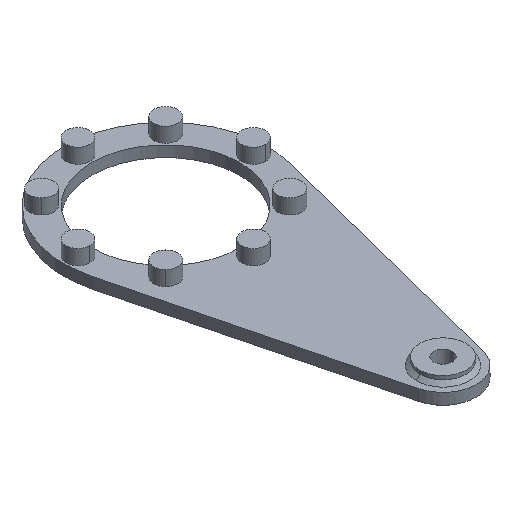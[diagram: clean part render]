
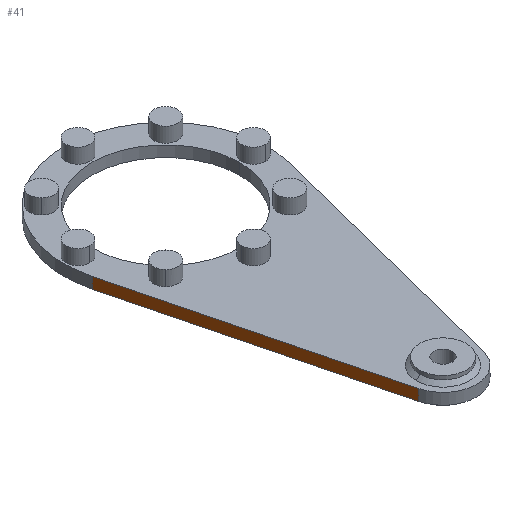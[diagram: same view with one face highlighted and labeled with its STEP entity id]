
A CAD part, isometric view. The second image highlights one B-rep face of the part: STEP entity #41.
In plain terms, the highlighted planar face has unit normal (-0.969, -0.247, 0).
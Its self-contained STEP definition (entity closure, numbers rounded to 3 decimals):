
#41=ADVANCED_FACE('',(#85),#717,.T.);
#85=FACE_OUTER_BOUND('',#131,.T.);
#131=EDGE_LOOP('',(#214,#215,#216,#217));
#214=ORIENTED_EDGE('',*,*,#402,.F.);
#215=ORIENTED_EDGE('',*,*,#403,.F.);
#216=ORIENTED_EDGE('',*,*,#399,.F.);
#217=ORIENTED_EDGE('',*,*,#401,.F.);
#399=EDGE_CURVE('',#655,#656,#487,.T.);
#401=EDGE_CURVE('',#657,#655,#488,.T.);
#402=EDGE_CURVE('',#658,#657,#489,.T.);
#403=EDGE_CURVE('',#656,#658,#490,.T.);
#487=B_SPLINE_CURVE_WITH_KNOTS('',1,(#1417,#1418),.UNSPECIFIED.,.F.,.F.,
(2,2),(0.,6.),.UNSPECIFIED.);
#488=B_SPLINE_CURVE_WITH_KNOTS('',1,(#1422,#1423),.UNSPECIFIED.,.F.,.F.,
(2,2),(-145.365,0.),.UNSPECIFIED.);
#489=B_SPLINE_CURVE_WITH_KNOTS('',1,(#1424,#1425),.UNSPECIFIED.,.F.,.F.,
(2,2),(-6.,0.),.UNSPECIFIED.);
#490=B_SPLINE_CURVE_WITH_KNOTS('',1,(#1426,#1427),.UNSPECIFIED.,.F.,.F.,
(2,2),(-145.365,0.),.UNSPECIFIED.);
#655=VERTEX_POINT('',#1308);
#656=VERTEX_POINT('',#1309);
#657=VERTEX_POINT('',#1310);
#658=VERTEX_POINT('',#1311);
#717=PLANE('',#938);
#938=AXIS2_PLACEMENT_3D('',#1242,#1048,$);
#1048=DIRECTION('',(-0.969,-0.247,0.));
#1242=CARTESIAN_POINT('',(-13.84,-168.598,-3.66));
#1308=CARTESIAN_POINT('',(-53.301,-13.567,-3.));
#1309=CARTESIAN_POINT('',(-53.301,-13.567,3.));
#1310=CARTESIAN_POINT('',(-17.444,-154.44,-3.));
#1311=CARTESIAN_POINT('',(-17.444,-154.44,3.));
#1417=CARTESIAN_POINT('',(-53.301,-13.567,-3.));
#1418=CARTESIAN_POINT('',(-53.301,-13.567,3.));
#1422=CARTESIAN_POINT('',(-17.444,-154.44,-3.));
#1423=CARTESIAN_POINT('',(-53.301,-13.567,-3.));
#1424=CARTESIAN_POINT('',(-17.444,-154.44,3.));
#1425=CARTESIAN_POINT('',(-17.444,-154.44,-3.));
#1426=CARTESIAN_POINT('',(-53.301,-13.567,3.));
#1427=CARTESIAN_POINT('',(-17.444,-154.44,3.));
